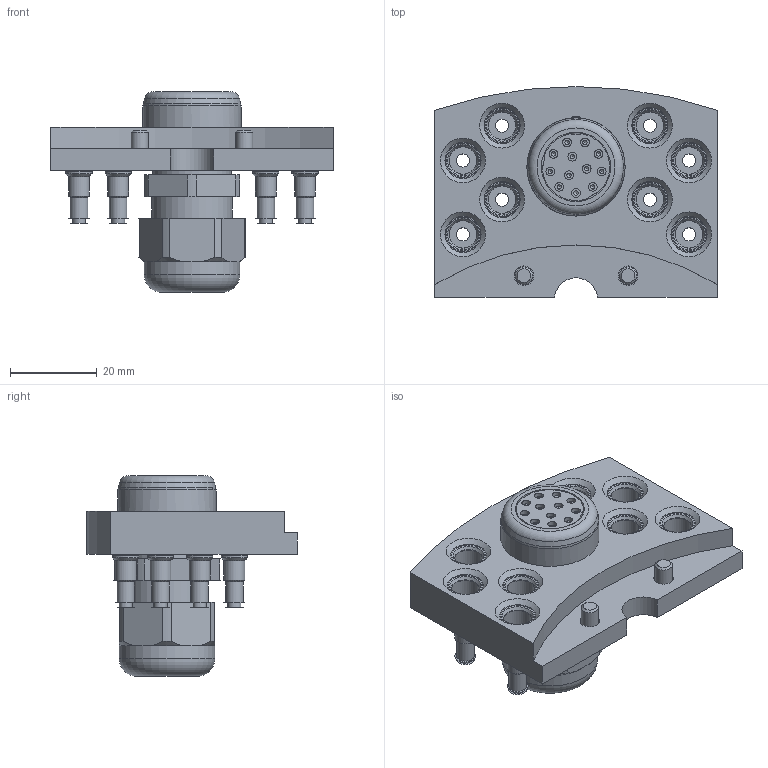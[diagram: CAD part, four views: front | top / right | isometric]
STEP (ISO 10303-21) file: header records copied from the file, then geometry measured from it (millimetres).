
FILE_DESCRIPTION(/* description */ (''),/* implementation_level */ '2;1');
FILE_NAME(/* name */ '\\dc01\daten\CAD\Standard\Daten\3D-Datenbank\Webseite 2020\MGW\MGW125\G-MEK125-U-8Pk4-1E12.stp',/* time_stamp */ '2020-04-28T15:08:28+02:00',/* author */ ('ysplieth'),/* organization */ (''),/* preprocessor_version */ 'ST-DEVELOPER v17',/* originating_system */ 'Autodesk Inventor 2018',/* authorisation */ '');
FILE_SCHEMA (('AUTOMOTIVE_DESIGN { 1 0 10303 214 3 1 1 }'));
Length unit declared in the file: millimetre
Products named in the file (1): G-MEK125-U-8Pk4-1E12
Bounding box: 65 x 48.5 x 46.1 mm (x, y, z)
Volume: 34873.4 mm3; surface area: 23440.6 mm2
Topology: 15 solids, 15 shells, 466 faces, 1265 edges, 888 vertices
Faces by surface type: plane 179, cylinder 174, cone 89, torus 24
Full cylindrical faces by diameter (mm): 1 x12, 1.6 x12, 2 x26, 2.013 x2, 3 x8, 4 x10, 4.5 x2, 4.8 x8, 5.5 x8, 5.9 x8, 6 x8, 6.3 x8, 7 x2, 8 x10, 8.3 x8, 10 x1, 14 x1, 15.9 x1, 17.1 x1, 18.1 x1, 18.5 x1, 22 x1, 22.6 x1
Entity records: 16304 total; most frequent: CARTESIAN_POINT 3328, DIRECTION 2830, ORIENTED_EDGE 2474, EDGE_CURVE 1237, AXIS2_PLACEMENT_3D 1181, VERTEX_POINT 888, CIRCLE 714, EDGE_LOOP 597
